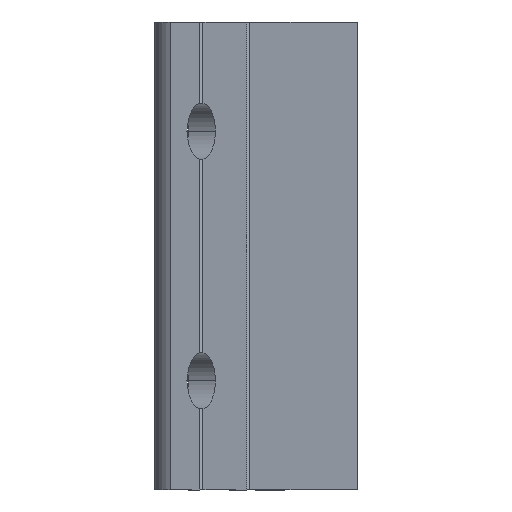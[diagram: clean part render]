
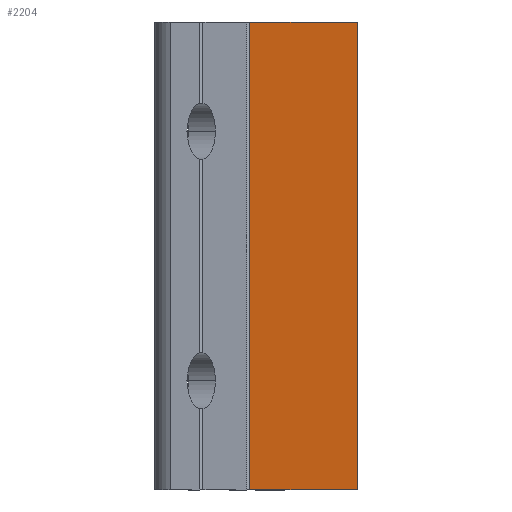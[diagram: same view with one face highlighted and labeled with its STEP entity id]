
A CAD part, left-side view. The second image highlights one B-rep face of the part: STEP entity #2204.
In plain terms, the highlighted planar face has unit normal (-0.5, -0.866, 0).
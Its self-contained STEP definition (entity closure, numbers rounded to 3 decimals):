
#11 = VECTOR ( 'NONE', #1885, 1000. ) ;
#51 = VERTEX_POINT ( 'NONE', #2152 ) ;
#112 = ORIENTED_EDGE ( 'NONE', *, *, #1117, .F. ) ;
#121 = ORIENTED_EDGE ( 'NONE', *, *, #724, .T. ) ;
#248 = FACE_OUTER_BOUND ( 'NONE', #1511, .T. ) ;
#449 = VERTEX_POINT ( 'NONE', #638 ) ;
#522 = DIRECTION ( 'NONE',  ( 0., 0., -1. ) ) ;
#638 = CARTESIAN_POINT ( 'NONE',  ( 0., 0., 0. ) ) ;
#640 = CARTESIAN_POINT ( 'NONE',  ( -29.878, 17.25, 0. ) ) ;
#724 = EDGE_CURVE ( 'NONE', #51, #1890, #1726, .T. ) ;
#732 = LINE ( 'NONE', #1072, #11 ) ;
#851 = ORIENTED_EDGE ( 'NONE', *, *, #1348, .F. ) ;
#956 = CARTESIAN_POINT ( 'NONE',  ( -29.878, 17.25, 0. ) ) ;
#963 = DIRECTION ( 'NONE',  ( 0., 0., -1. ) ) ;
#978 = LINE ( 'NONE', #640, #1685 ) ;
#1020 = VECTOR ( 'NONE', #522, 1000. ) ;
#1042 = CARTESIAN_POINT ( 'NONE',  ( -29.878, 17.25, 0. ) ) ;
#1072 = CARTESIAN_POINT ( 'NONE',  ( -29.878, 17.25, 75. ) ) ;
#1117 = EDGE_CURVE ( 'NONE', #51, #1653, #732, .T. ) ;
#1348 = EDGE_CURVE ( 'NONE', #1653, #449, #2181, .T. ) ;
#1435 = PLANE ( 'NONE',  #1703 ) ;
#1469 = CARTESIAN_POINT ( 'NONE',  ( 0., 0., 0. ) ) ;
#1498 = VECTOR ( 'NONE', #963, 1000. ) ;
#1511 = EDGE_LOOP ( 'NONE', ( #851, #112, #121, #2029 ) ) ;
#1597 = CARTESIAN_POINT ( 'NONE',  ( 0., 0., 75. ) ) ;
#1653 = VERTEX_POINT ( 'NONE', #1597 ) ;
#1685 = VECTOR ( 'NONE', #2148, 1000. ) ;
#1703 = AXIS2_PLACEMENT_3D ( 'NONE', #2125, #1943, #2107 ) ;
#1726 = LINE ( 'NONE', #1042, #1020 ) ;
#1826 = EDGE_CURVE ( 'NONE', #1890, #449, #978, .T. ) ;
#1885 = DIRECTION ( 'NONE',  ( 0.866, -0.5, 0. ) ) ;
#1890 = VERTEX_POINT ( 'NONE', #956 ) ;
#1943 = DIRECTION ( 'NONE',  ( -0.5, -0.866, 0. ) ) ;
#2029 = ORIENTED_EDGE ( 'NONE', *, *, #1826, .T. ) ;
#2107 = DIRECTION ( 'NONE',  ( 0.866, -0.5, 0. ) ) ;
#2125 = CARTESIAN_POINT ( 'NONE',  ( 0., 0., 0. ) ) ;
#2148 = DIRECTION ( 'NONE',  ( 0.866, -0.5, 0. ) ) ;
#2152 = CARTESIAN_POINT ( 'NONE',  ( -29.878, 17.25, 75. ) ) ;
#2181 = LINE ( 'NONE', #1469, #1498 ) ;
#2204 = ADVANCED_FACE ( 'NONE', ( #248 ), #1435, .T. ) ;
